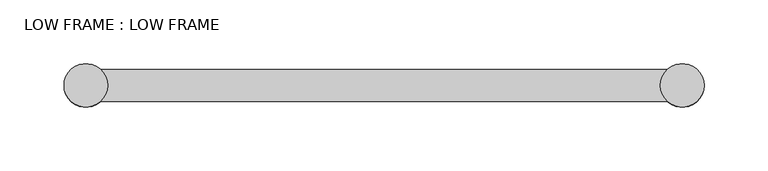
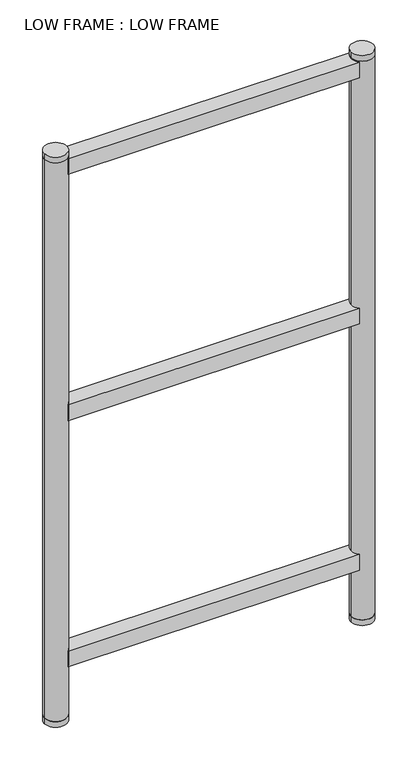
"""IFC4 building model written with IfcOpenShell, lengths in millimetres: furniture geometry, LOW FRAME : LOW FRAME."""

from ifc_helpers import new_model, si_unit, point, frame, frame_2d, origin, origin_with_axes, place, context, project, spatial, polyline, circle_curve, trimmed, segment, composite_curve, outline, extrude, source, transform, mapped, element, save


def low_frame_low_frame_804ac622(model_context):
    return source(origin(), model_context, "Body", "SweptSolid", [
        extrude(outline(composite_curve([segment(polyline([(221.4782814, -12.5), (-221.4782814, -12.5)]), True, "CONTINUOUS"), segment(trimmed(circle_curve(frame_2d((-233.0, 0.0)), 17.0), [point((-221.4782814, -12.5))], [point((-221.4782814, 12.5))], True, "CARTESIAN"), True, "CONTINUOUS"), segment(polyline([(-221.4782814, 12.5), (221.4782814, 12.5)]), True, "CONTINUOUS"), segment(trimmed(circle_curve(frame_2d((233.0, 0.0)), 17.0), [point((221.4782814, 12.5))], [point((221.4782814, -12.5))], True, "CARTESIAN"), True, "CONTINUOUS")], self_intersect=False)), frame((0.0, 0.0, 879.0), z_axis=(0.0, 0.0, 1.0), x_axis=(1.0, 0.0, 0.0)), (0.0, 0.0, 1.0), 25.0),
        extrude(outline(composite_curve([segment(polyline([(221.4782814, -12.5), (-221.4782814, -12.5)]), True, "CONTINUOUS"), segment(trimmed(circle_curve(frame_2d((-233.0, 0.0)), 17.0), [point((-221.4782814, -12.5))], [point((-221.4782814, 12.5))], True, "CARTESIAN"), True, "CONTINUOUS"), segment(polyline([(-221.4782814, 12.5), (221.4782814, 12.5)]), True, "CONTINUOUS"), segment(trimmed(circle_curve(frame_2d((233.0, 0.0)), 17.0), [point((221.4782814, 12.5))], [point((221.4782814, -12.5))], True, "CARTESIAN"), True, "CONTINUOUS")], self_intersect=False)), frame((0.0, 0.0, 484.0), z_axis=(0.0, 0.0, 1.0), x_axis=(1.0, 0.0, 0.0)), (0.0, 0.0, 1.0), 25.0),
        extrude(outline(composite_curve([segment(polyline([(221.4782814, -12.5), (-221.4782814, -12.5)]), True, "CONTINUOUS"), segment(trimmed(circle_curve(frame_2d((-233.0, 0.0)), 17.0), [point((-221.4782814, -12.5))], [point((-221.4782814, 12.5))], True, "CARTESIAN"), True, "CONTINUOUS"), segment(polyline([(-221.4782814, 12.5), (221.4782814, 12.5)]), True, "CONTINUOUS"), segment(trimmed(circle_curve(frame_2d((233.0, 0.0)), 17.0), [point((221.4782814, 12.5))], [point((221.4782814, -12.5))], True, "CARTESIAN"), True, "CONTINUOUS")], self_intersect=False)), frame((0.0, 0.0, 89.0), z_axis=(0.0, 0.0, 1.0), x_axis=(1.0, 0.0, 0.0)), (0.0, 0.0, 1.0), 25.0),
        extrude(outline(composite_curve([segment(trimmed(circle_curve(frame_2d((-233.0, 0.0)), 17.0), [point((-216.0, 0.0))], [point((-250.0, 0.0))], False, "CARTESIAN"), True, "CONTINUOUS"), segment(trimmed(circle_curve(frame_2d((-233.0, 0.0)), 17.0), [point((-250.0, 0.0))], [point((-216.0, 0.0))], False, "CARTESIAN"), True, "CONTINUOUS")], self_intersect=False)), frame((0.0, 0.0, 906.0), z_axis=(0.0, 0.0, 1.0), x_axis=(1.0, 0.0, 0.0)), (0.0, 0.0, 1.0), 9.0),
        extrude(outline(composite_curve([segment(trimmed(circle_curve(frame_2d((-233.0, 0.0)), 17.0), [point((-216.0, 0.0))], [point((-250.0, 0.0))], False, "CARTESIAN"), True, "CONTINUOUS"), segment(trimmed(circle_curve(frame_2d((-233.0, 0.0)), 17.0), [point((-250.0, 0.0))], [point((-216.0, 0.0))], False, "CARTESIAN"), True, "CONTINUOUS")], self_intersect=False)), origin_with_axes(), (0.0, 0.0, 1.0), 9.0),
        extrude(outline(composite_curve([segment(trimmed(circle_curve(frame_2d((-233.0, 0.0)), 17.0), [point((-216.0, 0.0))], [point((-250.0, 0.0))], False, "CARTESIAN"), True, "CONTINUOUS"), segment(trimmed(circle_curve(frame_2d((-233.0, 0.0)), 17.0), [point((-250.0, 0.0))], [point((-216.0, 0.0))], False, "CARTESIAN"), True, "CONTINUOUS")], self_intersect=False)), frame((0.0, 0.0, 9.0), z_axis=(0.0, 0.0, 1.0), x_axis=(1.0, 0.0, 0.0)), (0.0, 0.0, 1.0), 897.0),
        extrude(outline(composite_curve([segment(trimmed(circle_curve(frame_2d((233.0, 0.0)), 17.0), [point((216.0, 0.0))], [point((250.0, 0.0))], False, "CARTESIAN"), True, "CONTINUOUS"), segment(trimmed(circle_curve(frame_2d((233.0, 0.0)), 17.0), [point((250.0, 0.0))], [point((216.0, 0.0))], False, "CARTESIAN"), True, "CONTINUOUS")], self_intersect=False)), frame((0.0, 0.0, 906.0), z_axis=(0.0, 0.0, 1.0), x_axis=(1.0, 0.0, 0.0)), (0.0, 0.0, 1.0), 9.0),
        extrude(outline(composite_curve([segment(trimmed(circle_curve(frame_2d((233.0, 0.0)), 17.0), [point((216.0, 0.0))], [point((250.0, 0.0))], False, "CARTESIAN"), True, "CONTINUOUS"), segment(trimmed(circle_curve(frame_2d((233.0, 0.0)), 17.0), [point((250.0, 0.0))], [point((216.0, 0.0))], False, "CARTESIAN"), True, "CONTINUOUS")], self_intersect=False)), origin_with_axes(), (0.0, 0.0, 1.0), 9.0),
        extrude(outline(composite_curve([segment(trimmed(circle_curve(frame_2d((233.0, 0.0)), 17.0), [point((216.0, 0.0))], [point((250.0, 0.0))], False, "CARTESIAN"), True, "CONTINUOUS"), segment(trimmed(circle_curve(frame_2d((233.0, 0.0)), 17.0), [point((250.0, 0.0))], [point((216.0, 0.0))], False, "CARTESIAN"), True, "CONTINUOUS")], self_intersect=False)), frame((0.0, 0.0, 9.0), z_axis=(0.0, 0.0, 1.0), x_axis=(1.0, 0.0, 0.0)), (0.0, 0.0, 1.0), 897.0),
    ])


if __name__ == "__main__":
    model = new_model("IFC4")
    model_context = context("Model", 3, world=origin())
    ifc_project = project(units=[si_unit("LENGTHUNIT", "METRE", prefix="MILLI")], contexts=[model_context])
    site = spatial("IfcSite", under=ifc_project)
    building = spatial("IfcBuilding", under=site)
    placement = place(None, origin())
    low_frame_low_frame_shape = low_frame_low_frame_804ac622(model_context)
    element("IfcFurniture", 1, ObjectType="LOW FRAME : LOW FRAME", at=placement, inside=building, context=model_context, shape_type="MappedRepresentation", body=[
        mapped(low_frame_low_frame_shape, transform((0.0, 0.0, 0.0), x_axis=(1.0, 0.0, 0.0), y_axis=(0.0, 1.0, 0.0), z_axis=(0.0, 0.0, 1.0))),
    ])
    save(model, "model.ifc")
